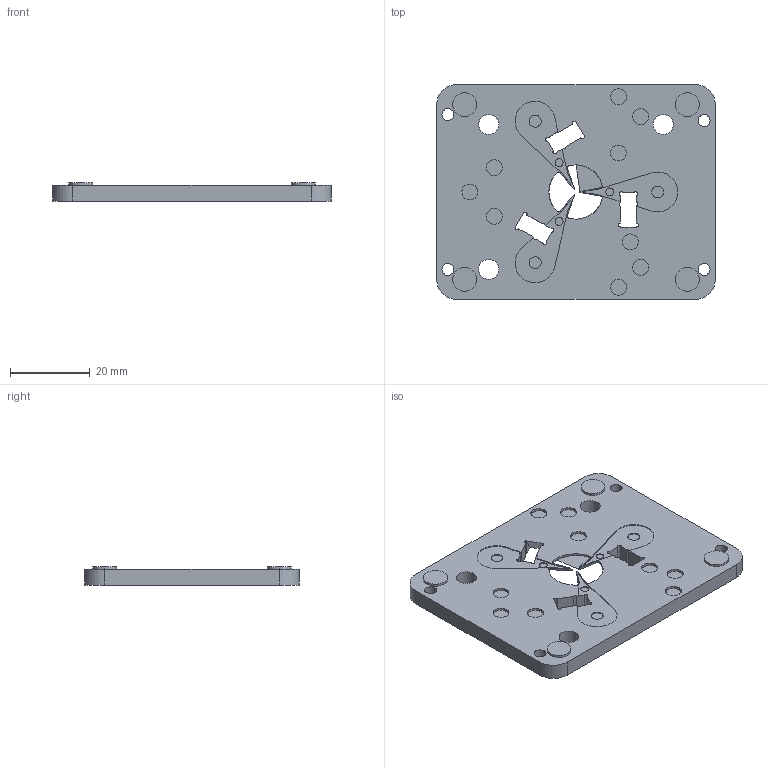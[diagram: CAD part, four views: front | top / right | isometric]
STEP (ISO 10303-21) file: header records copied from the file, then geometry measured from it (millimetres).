
FILE_DESCRIPTION (( 'STEP AP203' ), '1' );
FILE_NAME ('lowlid_R2.step', '2026-06-05T03:33:01', ( '' ), ( '' ), 'SwSTEP 2.0', 'SolidWorks 2024', '' );
FILE_SCHEMA (( 'CONFIG_CONTROL_DESIGN' ));
Length unit declared in the file: millimetre
Products named in the file (1): lowlid_R2
Bounding box: 69.8 x 53.8 x 4.6 mm (x, y, z)
Volume: 13045.9 mm3; surface area: 8724.8 mm2
Topology: 1 solids, 1 shells, 187 faces, 504 edges, 332 vertices
Faces by surface type: cylinder 103, plane 79, cone 5
Entity records: 6104 total; most frequent: DIRECTION 1105, CARTESIAN_POINT 1069, ORIENTED_EDGE 1008, EDGE_CURVE 504, AXIS2_PLACEMENT_3D 422, VERTEX_POINT 332, LINE 261, VECTOR 261
